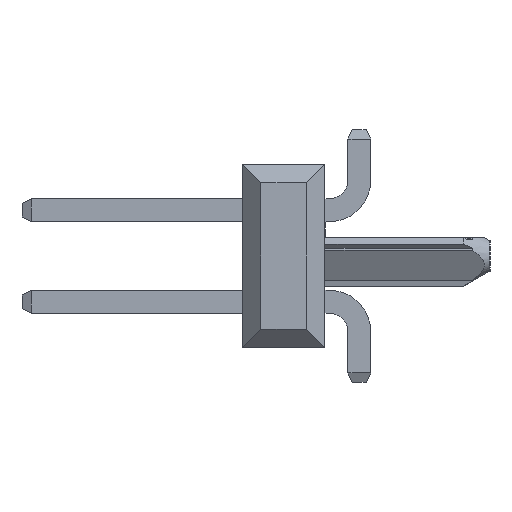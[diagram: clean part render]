
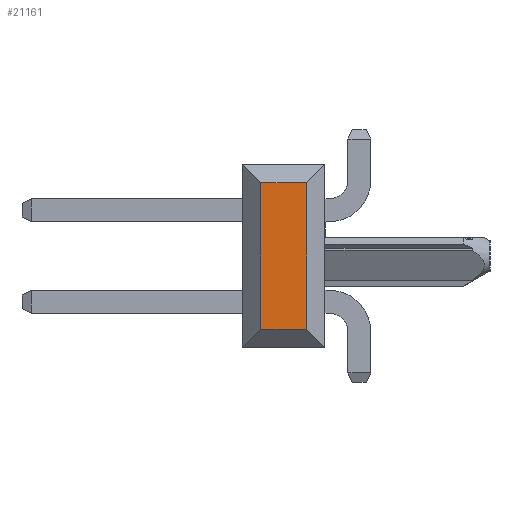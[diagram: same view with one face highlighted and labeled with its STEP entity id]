
A CAD part, left-side view. The second image highlights one B-rep face of the part: STEP entity #21161.
In plain terms, the highlighted planar face has unit normal (-1, 0, 0).
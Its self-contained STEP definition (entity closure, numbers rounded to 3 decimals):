
#7343=DIRECTION('',(0.,0.,1.));
#7344=VECTOR('',#7343,4.064);
#7345=CARTESIAN_POINT('',(-16.51,-0.635,-2.032));
#7346=LINE('',#7345,#7344);
#7355=DIRECTION('',(0.,0.,1.));
#7356=VECTOR('',#7355,4.064);
#7357=CARTESIAN_POINT('',(-16.51,0.635,-2.032));
#7358=LINE('',#7357,#7356);
#7359=DIRECTION('',(0.,-1.,0.));
#7360=VECTOR('',#7359,1.27);
#7361=CARTESIAN_POINT('',(-16.51,0.635,2.032));
#7362=LINE('',#7361,#7360);
#7363=DIRECTION('',(0.,-1.,0.));
#7364=VECTOR('',#7363,1.27);
#7365=CARTESIAN_POINT('',(-16.51,0.635,-2.032));
#7366=LINE('',#7365,#7364);
#7415=CARTESIAN_POINT('',(-16.51,0.635,-2.032));
#7416=CARTESIAN_POINT('',(-16.51,0.635,2.032));
#7417=VERTEX_POINT('',#7415);
#7418=VERTEX_POINT('',#7416);
#7419=CARTESIAN_POINT('',(-16.51,-0.635,-2.032));
#7420=CARTESIAN_POINT('',(-16.51,-0.635,2.032));
#7421=VERTEX_POINT('',#7419);
#7422=VERTEX_POINT('',#7420);
#21147=CARTESIAN_POINT('',(-16.51,0.635,-2.54));
#21148=DIRECTION('',(-1.,0.,0.));
#21149=DIRECTION('',(0.,-1.,0.));
#21150=AXIS2_PLACEMENT_3D('',#21147,#21148,#21149);
#21151=PLANE('',#21150);
#21153=ORIENTED_EDGE('',*,*,#21152,.T.);
#21155=ORIENTED_EDGE('',*,*,#21154,.T.);
#21156=ORIENTED_EDGE('',*,*,#21137,.F.);
#21158=ORIENTED_EDGE('',*,*,#21157,.F.);
#21159=EDGE_LOOP('',(#21153,#21155,#21156,#21158));
#21160=FACE_OUTER_BOUND('',#21159,.F.);
#21161=ADVANCED_FACE('',(#21160),#21151,.T.);
#21137=EDGE_CURVE('',#7421,#7422,#7346,.T.);
#21152=EDGE_CURVE('',#7417,#7418,#7358,.T.);
#21154=EDGE_CURVE('',#7418,#7422,#7362,.T.);
#21157=EDGE_CURVE('',#7417,#7421,#7366,.T.);
